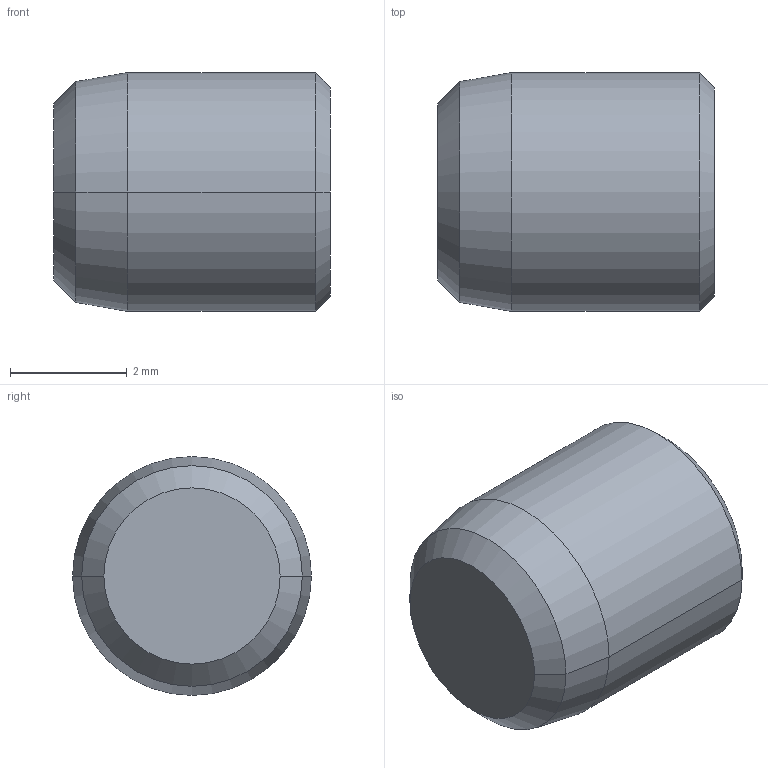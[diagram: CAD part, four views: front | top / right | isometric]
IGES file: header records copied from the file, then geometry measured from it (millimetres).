
Start section:  PTC IGES file: bb50.igs
Global section: file name: bb50.igs; native system: Pro/ENGINEER by Parametric Technology Corporation; preprocessor: 2002350; author: chant; organization: Unknown; date: 070705.142704; units: inch
Bounding box: 4.75 x 4.1 x 4.1 mm (x, y, z)
Surface area: 80.9 mm2 (no closed solid volume)
Topology: 0 solids, 0 shells, 13 faces, 65 edges, 75 vertices
Faces by surface type: revolution 10, bspline 3
